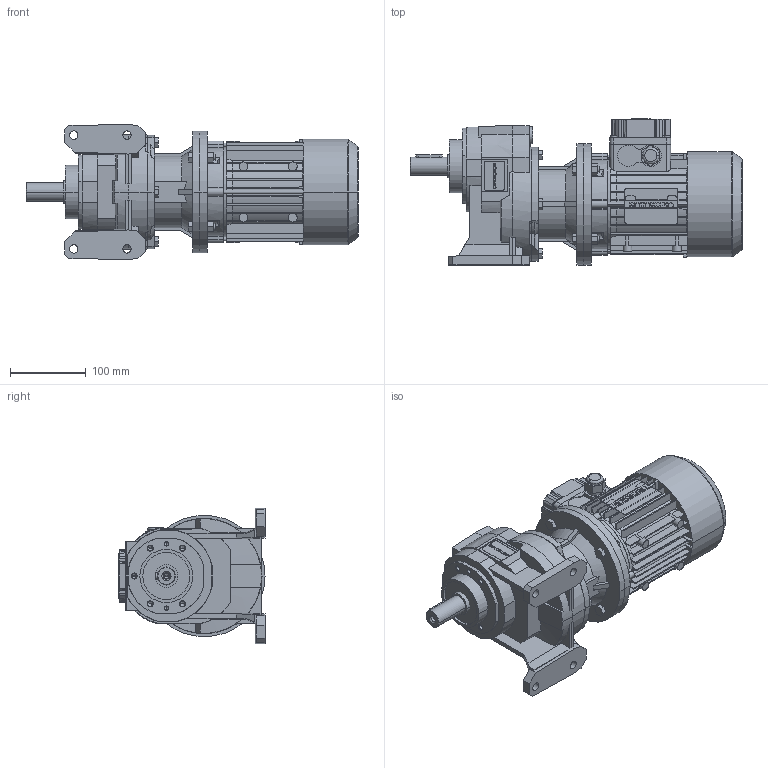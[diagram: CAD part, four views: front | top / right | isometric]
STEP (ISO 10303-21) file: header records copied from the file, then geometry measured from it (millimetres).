
FILE_DESCRIPTION( ( '' ), '1' );
FILE_NAME( '//expscmdclustefs.cadenas.external/client_exchange/iodir/jobs/output/wkb51934997_no0/STEP/H051U2_5771_B524x500T0711_2_03.stp', '2012-12-04T09:19:02', ( '' ), ( '' ), ' ', ' ', ' ' );
FILE_SCHEMA( ( 'CONFIG_CONTROL_DESIGN' ) );
Length unit declared in the file: millimetre
Products named in the file (10): 1; 2; 3; 4; 5; 6; 7; 8; 9; 10
Bounding box: 437.5 x 192.5 x 178 mm (x, y, z)
Volume: 5600227.9 mm3; surface area: 541819.6 mm2
Topology: 10 solids, 10 shells, 2207 faces, 6125 edges, 4049 vertices
Faces by surface type: plane 1180, cylinder 890, cone 122, torus 11, sphere 4
Entity records: 72344 total; most frequent: CARTESIAN_POINT 14041, DIRECTION 12400, ORIENTED_EDGE 12214, EDGE_CURVE 6107, AXIS2_PLACEMENT_3D 4348, VERTEX_POINT 4049, LINE 3704, VECTOR 3704
